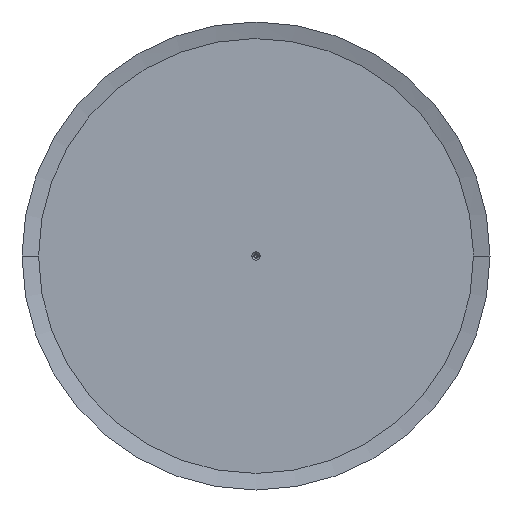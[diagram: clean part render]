
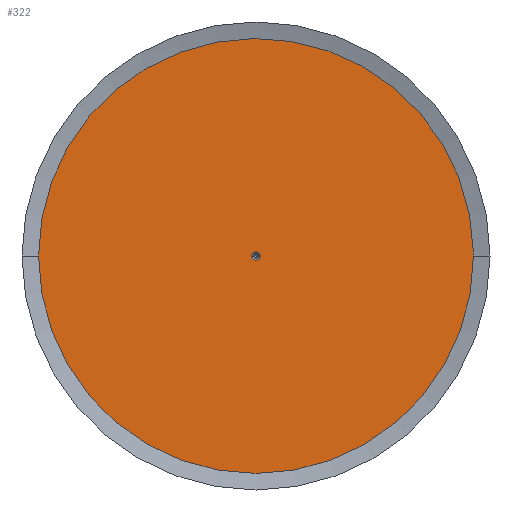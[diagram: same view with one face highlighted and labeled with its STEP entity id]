
A CAD part, left-side view. The second image highlights one B-rep face of the part: STEP entity #322.
In plain terms, the highlighted planar face has unit normal (-1, 0, 0).
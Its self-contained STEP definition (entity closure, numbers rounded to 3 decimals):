
#322=ADVANCED_FACE('',(#939,#940),#941,.T.);
#939=FACE_BOUND('',#1676,.T.);
#940=FACE_OUTER_BOUND('',#1677,.T.);
#941=PLANE('',#1678);
#1676=EDGE_LOOP('',(#4227,#4228));
#1677=EDGE_LOOP('',(#4229,#4230,#4231));
#1678=AXIS2_PLACEMENT_3D('',#4232,#4233,#4234);
#4227=ORIENTED_EDGE('',*,*,#5399,.T.);
#4228=ORIENTED_EDGE('',*,*,#5412,.T.);
#4229=ORIENTED_EDGE('',*,*,#6118,.F.);
#4230=ORIENTED_EDGE('',*,*,#6117,.F.);
#4231=ORIENTED_EDGE('',*,*,#5173,.F.);
#4232=CARTESIAN_POINT('',(0.0,0.0,0.0));
#4233=DIRECTION('',(-1.0,0.0,0.0));
#4234=DIRECTION('',(0.0,0.0,1.0));
#5173=EDGE_CURVE('',#6251,#6248,#6253,.T.);
#5399=EDGE_CURVE('',#6693,#6695,#6697,.T.);
#5412=EDGE_CURVE('',#6695,#6693,#6717,.T.);
#6117=EDGE_CURVE('',#6248,#7901,#7902,.T.);
#6118=EDGE_CURVE('',#7901,#6251,#7903,.T.);
#6248=VERTEX_POINT('',#8036);
#6251=VERTEX_POINT('',#8040);
#6253=CIRCLE('',#8043,105.0);
#6693=VERTEX_POINT('',#9171);
#6695=VERTEX_POINT('',#9174);
#6697=CIRCLE('',#9177,2.0);
#6717=CIRCLE('',#9203,2.0);
#7901=VERTEX_POINT('',#11180);
#7902=CIRCLE('',#11181,105.0);
#7903=CIRCLE('',#11182,105.0);
#8036=CARTESIAN_POINT('',(0.0,105.0,0.));
#8040=CARTESIAN_POINT('',(0.0,-105.0,0.));
#8043=AXIS2_PLACEMENT_3D('',#11437,#11438,#11439);
#9171=CARTESIAN_POINT('',(0.0,2.0,0.0));
#9174=CARTESIAN_POINT('',(0.0,-2.0,0.));
#9177=AXIS2_PLACEMENT_3D('',#11791,#11792,#11793);
#9203=AXIS2_PLACEMENT_3D('',#11818,#11819,#11820);
#11180=CARTESIAN_POINT('',(0.0,-104.981,1.989));
#11181=AXIS2_PLACEMENT_3D('',#13403,#13404,#13405);
#11182=AXIS2_PLACEMENT_3D('',#13406,#13407,#13408);
#11437=CARTESIAN_POINT('',(0.0,0.0,0.0));
#11438=DIRECTION('',(1.0,0.0,0.0));
#11439=DIRECTION('',(0.0,1.0,0.0));
#11791=CARTESIAN_POINT('',(0.0,0.0,0.0));
#11792=DIRECTION('',(1.0,0.0,0.0));
#11793=DIRECTION('',(0.0,1.0,0.0));
#11818=CARTESIAN_POINT('',(0.0,0.0,0.0));
#11819=DIRECTION('',(1.0,0.0,0.0));
#11820=DIRECTION('',(0.0,1.0,0.0));
#13403=CARTESIAN_POINT('',(0.0,0.0,0.0));
#13404=DIRECTION('',(1.0,0.0,0.0));
#13405=DIRECTION('',(0.0,1.0,0.0));
#13406=CARTESIAN_POINT('',(0.0,0.0,0.0));
#13407=DIRECTION('',(1.0,0.0,0.0));
#13408=DIRECTION('',(0.0,1.0,0.0));
